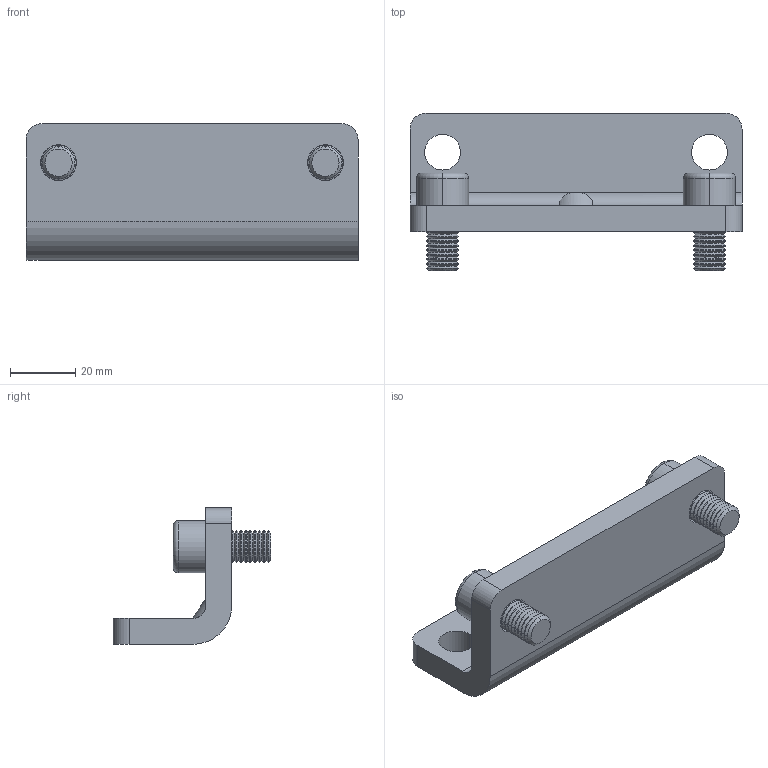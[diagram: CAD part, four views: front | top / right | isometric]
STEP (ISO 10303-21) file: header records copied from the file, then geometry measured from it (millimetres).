
FILE_DESCRIPTION (( 'STEP AP214' ), '1' );
FILE_NAME ('26_541_2.STEP', '2017-02-24T09:48:51', ( '' ), ( '' ), 'SwSTEP 2.0', 'SolidWorks 2016', '' );
FILE_SCHEMA (( 'AUTOMOTIVE_DESIGN' ));
Length unit declared in the file: millimetre
Products named in the file (1): 26_541_2
Bounding box: 102 x 48.5 x 42 mm (x, y, z)
Volume: 57704.1 mm3; surface area: 20350.8 mm2
Topology: 3 solids, 3 shells, 210 faces, 534 edges, 330 vertices
Faces by surface type: cone 96, cylinder 67, plane 38, torus 8, bspline 1
Entity records: 8818 total; most frequent: DIRECTION 1242, CARTESIAN_POINT 1153, ORIENTED_EDGE 1060, EDGE_CURVE 530, AXIS2_PLACEMENT_3D 506, VERTEX_POINT 330, CIRCLE 296, LINE 230
